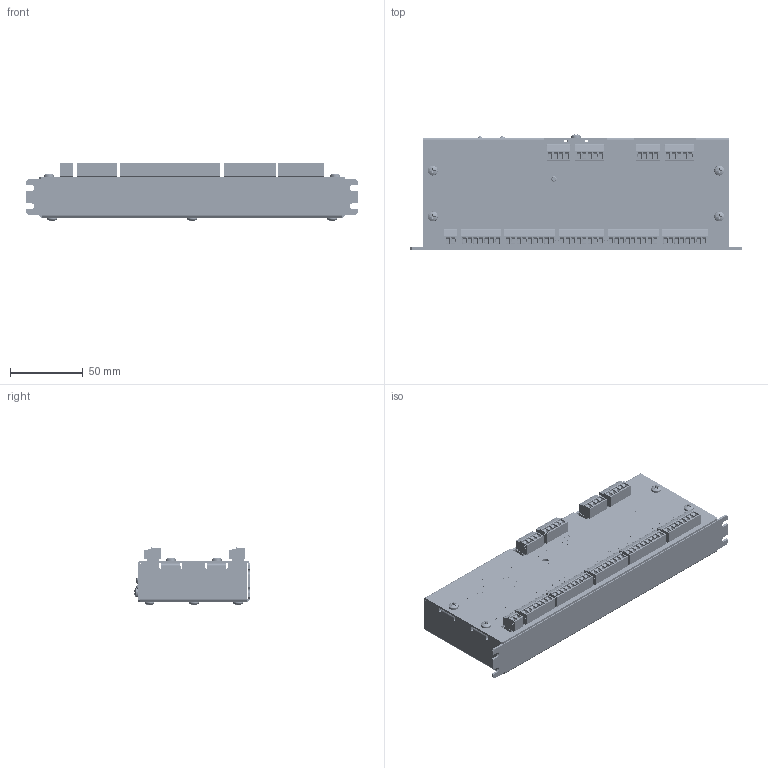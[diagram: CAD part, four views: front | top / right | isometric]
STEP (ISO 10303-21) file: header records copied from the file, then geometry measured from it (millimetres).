
FILE_DESCRIPTION (( 'STEP AP214' ), '1' );
FILE_NAME ('PCL602USB.STEP', '2012-08-21T16:20:25', ( '' ), ( '' ), 'SwSTEP 2.0', 'SolidWorks 2012', '' );
FILE_SCHEMA (( 'AUTOMOTIVE_DESIGN' ));
Length unit declared in the file: inch
Products named in the file (25): 1803604; 1803594; 1803633; 1803646; 1803620; 1803578; Cover, PCL602USB; SUB-AA5967-1; 1803455; 1803442; 1803484; 1803497; 1803471; 1803426; pan cross head_ai_CR-PHMS 0.138-32x0.25x0.25-S; Standoff, 6-32x.250_STD-63258H; CAP-0144; CON-H9081; CON-67068-1000; LED-0008; LED-0006; SWT-KST241GLFS; AA5967PCB; Base Plate, PCL602USB; PCL602USB
Assembly tree (50 placements, depth 3):
  PCL602USB
    Base Plate, PCL602USB
    SUB-AA5967-1
      AA5967PCB
      SWT-KST241GLFS
      LED-0006
      LED-0008
      CON-67068-1000
      CON-H9081
      CAP-0144
      Standoff, 6-32x.250_STD-63258H  x5
      pan cross head_ai_CR-PHMS 0.138-32x0.25x0.25-S  x5
      1803426
      1803471
      1803497  x2
      1803484  x2
      1803442  x2
      1803455  x2
    pan cross head_ai_CR-PHMS 0.138-32x0.25x0.25-S  x10
    Cover, PCL602USB
    1803578
    1803620
    1803646  x2
    1803633  x2
    1803594  x2
    1803604  x2
Bounding box: 228.6 x 79.53 x 40.11 mm (x, y, z)
Volume: 131140 mm3; surface area: 173390.1 mm2
Topology: 51 solids, 51 shells, 15633 faces, 40976 edges, 26744 vertices
Faces by surface type: plane 10026, cylinder 2558, bspline 2242, cone 721, sphere 50, torus 36
Entity records: 575640 total; most frequent: CARTESIAN_POINT 175590, ORIENTED_EDGE 57454, DIRECTION 44999, EDGE_CURVE 28727, LINE 20695, VECTOR 20695, VERTEX_POINT 18946, EDGE_LOOP 12233
